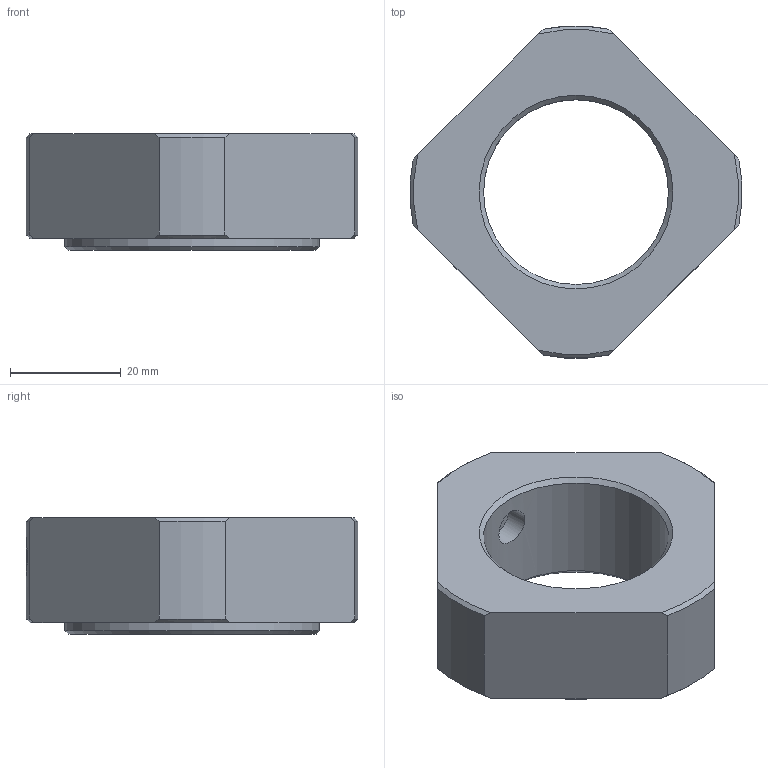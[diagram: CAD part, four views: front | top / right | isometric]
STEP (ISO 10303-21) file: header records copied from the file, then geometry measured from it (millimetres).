
FILE_DESCRIPTION(/* description */ ('STEP AP203'),/* implementation_level */ '2;1');
FILE_NAME(/* name */ 'RN 35',/* time_stamp */ '2025-06-11T07:42:30+02:00',/* author */ ('License CC BY-ND 4.0'),/* organization */ ('CADENAS'),/* preprocessor_version */ 'ST-DEVELOPER v19.3',/* originating_system */ 'PARTsolutions',/* authorisation */ ' ');
FILE_SCHEMA (('CONFIG_CONTROL_DESIGN'));
Length unit declared in the file: millimetre
Products named in the file (1): RN 35
Bounding box: 59.87 x 59.93 x 21 mm (x, y, z)
Volume: 29749.3 mm3; surface area: 8879.6 mm2
Topology: 1 solids, 1 shells, 36 faces, 86 edges, 56 vertices
Faces by surface type: plane 16, cone 12, cylinder 8
Full cylindrical faces by diameter (mm): 6.647 x1, 8 x1, 33.376 x1, 46 x1
Entity records: 1070 total; most frequent: CARTESIAN_POINT 239, DIRECTION 160, ORIENTED_EDGE 156, EDGE_CURVE 78, AXIS2_PLACEMENT_3D 63, VERTEX_POINT 56, EDGE_LOOP 50, FACE_BOUND 50
